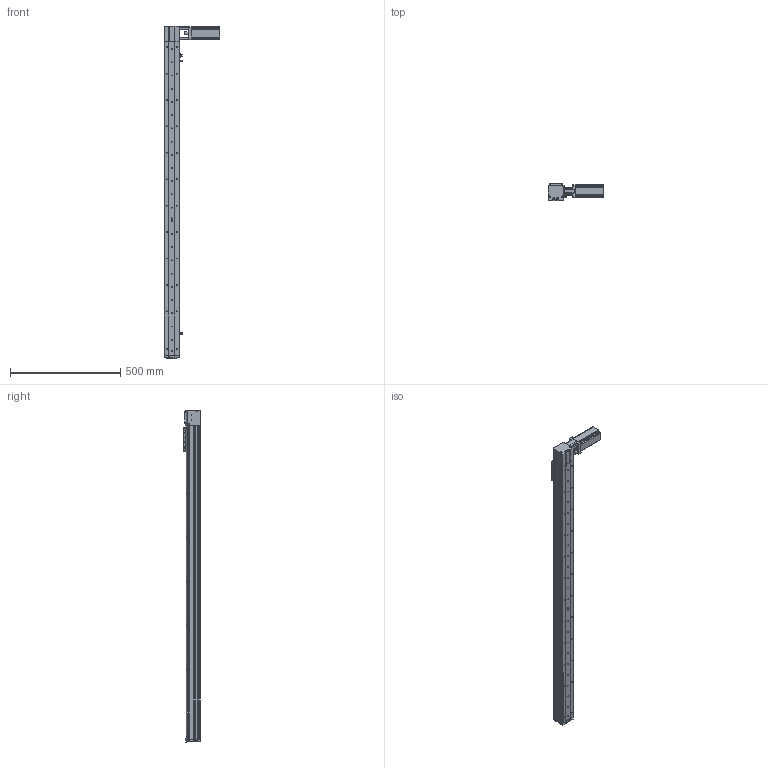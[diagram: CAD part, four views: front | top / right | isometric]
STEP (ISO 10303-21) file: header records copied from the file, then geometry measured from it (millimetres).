
FILE_DESCRIPTION (( 'STEP AP214' ), '1' );
FILE_NAME ('KSD68BS-S1250-MRT-CR.STEP', '2019-11-07T06:51:27', ( '微软用户' ), ( '微软中国' ), 'SwSTEP 2.0', 'SolidWorks 2014', '' );
FILE_SCHEMA (( 'AUTOMOTIVE_DESIGN' ));
Length unit declared in the file: millimetre
Products named in the file (13): 100遵鎮湛假蚾啣1; KSD68BS 1250行程盖板全封闭; 68遵裔啣揤啣1; 68宽单导轨全封闭丝杆传动安装板1防护罩; KSD68BS 1250行程侧板全封闭; 68宽单导轨全封闭同步带端板; 68单导轨全封闭同步带电机座左; 68单导轨全封闭同步带安装板; 感应片68宽全封闭; U倰嫖萇EEㄜSX672; 台达ECMA－C20604AS伺服电机（400W); KSD68BS 1250行程底板全封闭; KSD68BS-S1250-MRT-CR
Assembly tree (16 placements, depth 2):
  KSD68BS-S1250-MRT-CR
    KSD68BS 1250行程底板全封闭
    台达ECMA－C20604AS伺服电机（400W)
    U倰嫖萇EEㄜSX672  x3
    感应片68宽全封闭
    68单导轨全封闭同步带安装板
    68单导轨全封闭同步带电机座左
    68宽单导轨全封闭同步带端板
    KSD68BS 1250行程侧板全封闭  x2
    68宽单导轨全封闭丝杆传动安装板1防护罩
    68遵裔啣揤啣1  x2
    KSD68BS 1250行程盖板全封闭
    100遵鎮湛假蚾啣1
Bounding box: 252.7 x 77 x 1508.1 mm (x, y, z)
Volume: 2821722.4 mm3; surface area: 1092719.2 mm2
Topology: 17 solids, 17 shells, 1491 faces, 4272 edges, 2726 vertices
Faces by surface type: cylinder 717, plane 602, cone 172
Entity records: 47974 total; most frequent: CARTESIAN_POINT 8307, DIRECTION 7087, ORIENTED_EDGE 6788, EDGE_CURVE 3394, AXIS2_PLACEMENT_3D 2574, VERTEX_POINT 2224, VECTOR 1939, LINE 1939
